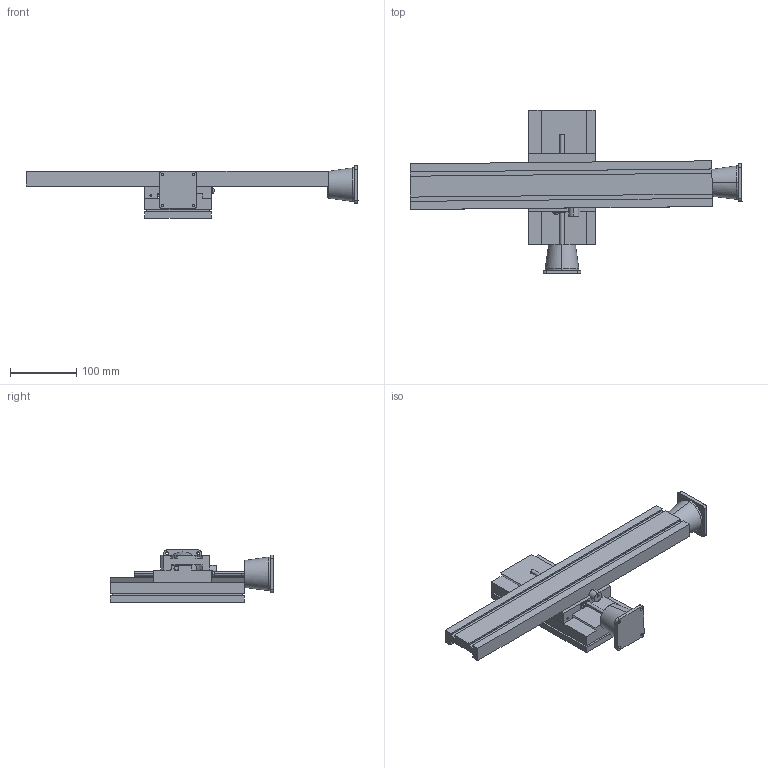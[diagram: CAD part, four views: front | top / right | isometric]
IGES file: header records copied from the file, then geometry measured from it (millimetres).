
Start section: Comment
Global section: file name: 6540-ind x,y-base 18 cnc.igs; native system:  By Spatial Corp.; preprocessor: XPlus PS/IGES 3.0; author: Author; organization: Title; date: 20170126.085658; units: inch
Bounding box: 502.87 x 248.28 x 79.28 mm (x, y, z)
Surface area: 251605.8 mm2 (no closed solid volume)
Topology: 0 solids, 0 shells, 441 faces, 2180 edges, 2174 vertices
Faces by surface type: extrusion 308, revolution 132, bspline 1
